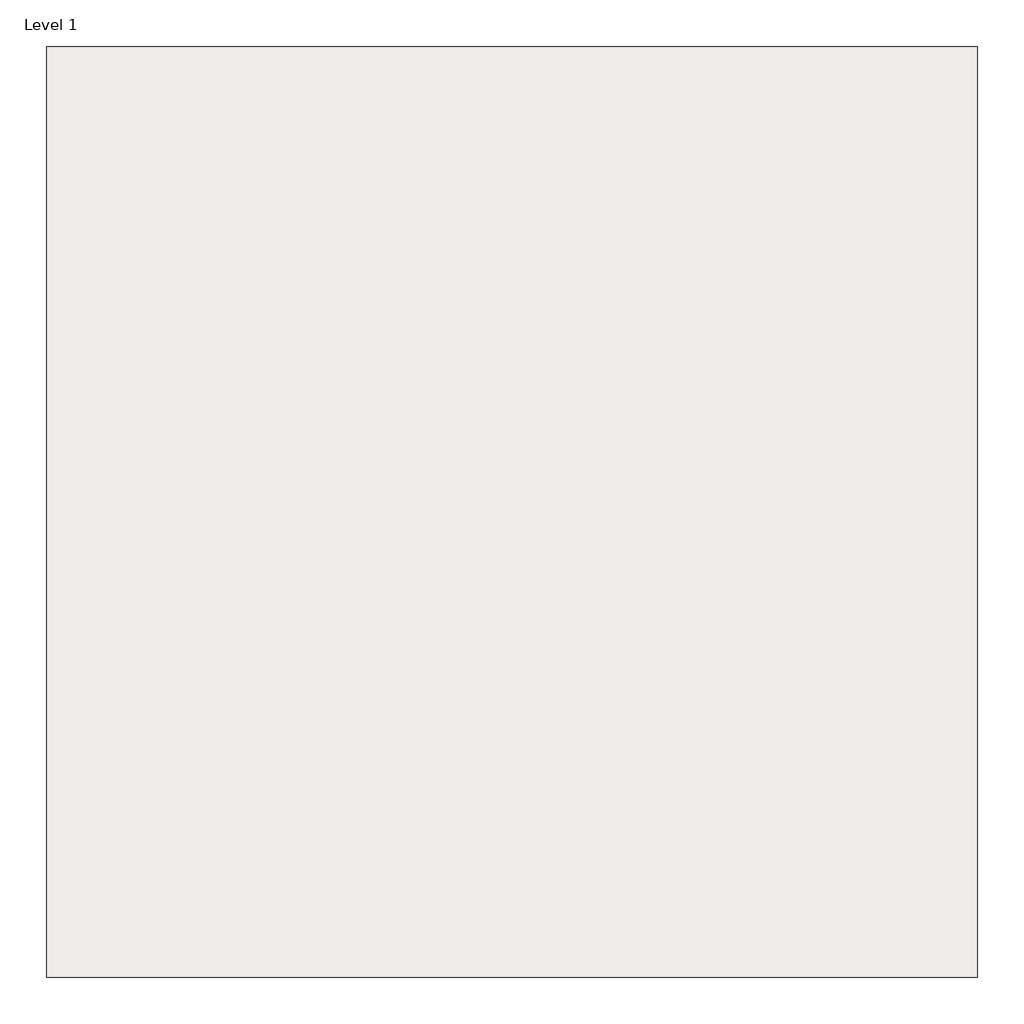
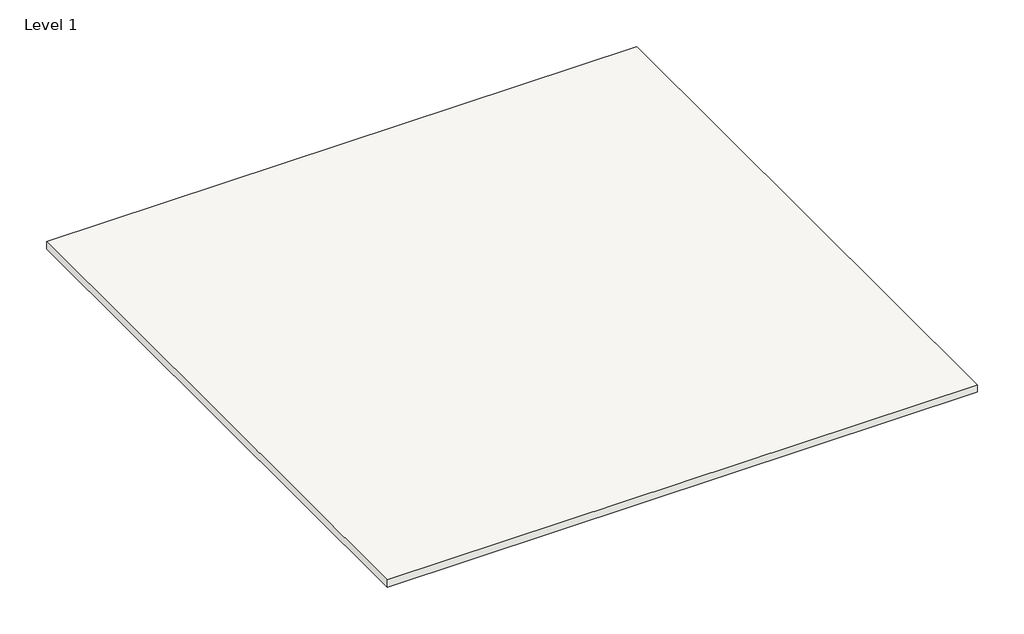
# One storey: 1 slab.
"""IFC4 building model written with IfcOpenShell, lengths in millimetres."""

from ifc_helpers import new_model, si_unit, frame, origin, place, context, project, spatial, polyline, outline, extrude, element, save

model = new_model("IFC4")

# Units and contexts
model_context = context("Model", 3, world=origin())
ifc_project = project(units=[si_unit("LENGTHUNIT", "METRE", prefix="MILLI")], contexts=[model_context])

# Site, building, storey
site = spatial("IfcSite", under=ifc_project)
building = spatial("IfcBuilding", under=site)
storey = spatial("IfcBuildingStorey", under=building, Name="Level 1", Elevation=4000.0)

# Slab
placement = place(None, origin())
element("IfcSlab", 1, ObjectType="NBS_IKOPLC_SingleLayerSheetWarmRoofCoveringSystems_IKOArmourplanFullyAdheredPSGPVCSinglePlyWarmRoofBondedSystem_20-25Year", at=placement, inside=storey, context=model_context, shape_type="SweptSolid", body=[
    extrude(outline(polyline([(0.0, -4400.0), (2500.0, -4400.0), (2500.0, -6900.0), (0.0, -6900.0), (0.0, -4400.0)])), frame((0.0, 0.0, 4000.0), z_axis=(0.0, 0.0, 1.0), x_axis=(1.0, 0.0, 0.0)), (0.0, 0.0, 1.0), 32.8),
])

save(model, "model.ifc")
